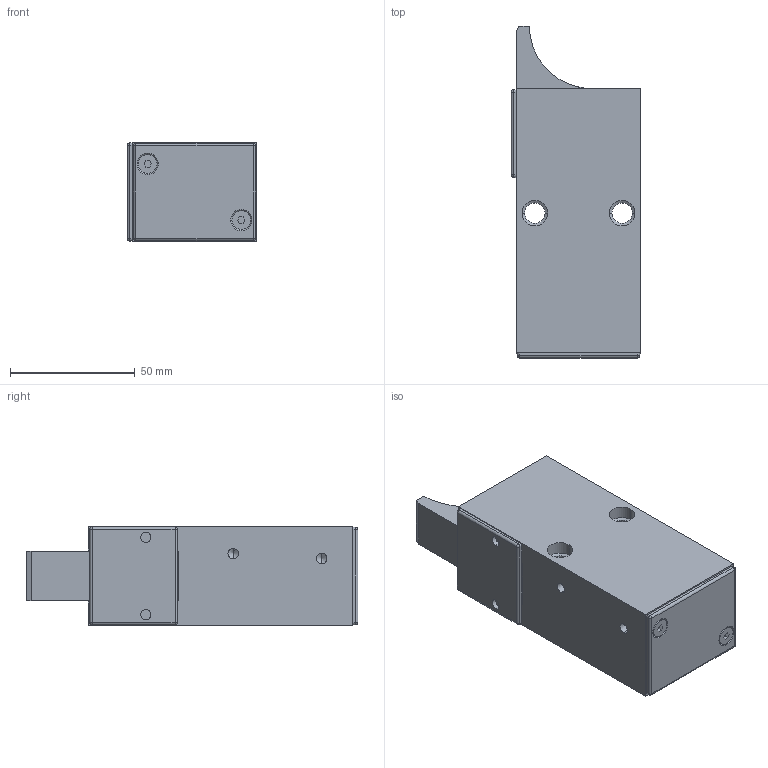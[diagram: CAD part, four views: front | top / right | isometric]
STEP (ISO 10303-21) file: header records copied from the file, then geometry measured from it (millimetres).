
FILE_DESCRIPTION (( 'STEP AP214' ), '1' );
FILE_NAME ('D0400-25-DW-H.STEP', '2011-09-30T08:14:55', ( 'test' ), ( '' ), 'SwSTEP 2.0', 'SolidWorks 2010', '' );
FILE_SCHEMA (( 'AUTOMOTIVE_DESIGN' ));
Length unit declared in the file: millimetre
Products named in the file (1): D0400-25-DW-H
Bounding box: 52 x 133 x 40 mm (x, y, z)
Volume: 208497.5 mm3; surface area: 34918.7 mm2
Topology: 1 solids, 1 shells, 130 faces, 312 edges, 176 vertices
Faces by surface type: cylinder 53, plane 45, cone 24, sphere 8
Entity records: 3766 total; most frequent: DIRECTION 662, CARTESIAN_POINT 613, ORIENTED_EDGE 584, EDGE_CURVE 292, AXIS2_PLACEMENT_3D 241, VECTOR 180, LINE 180, VERTEX_POINT 176
